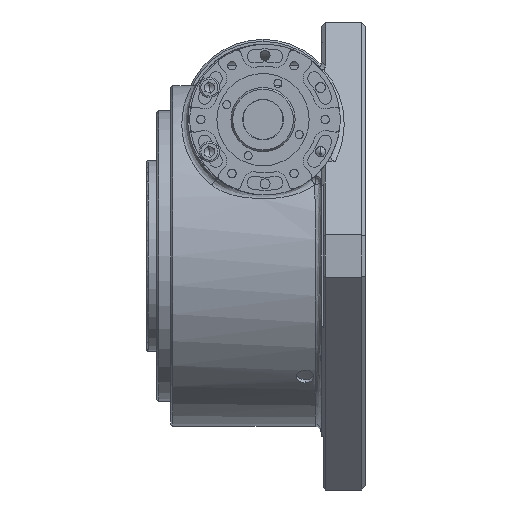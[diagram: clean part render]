
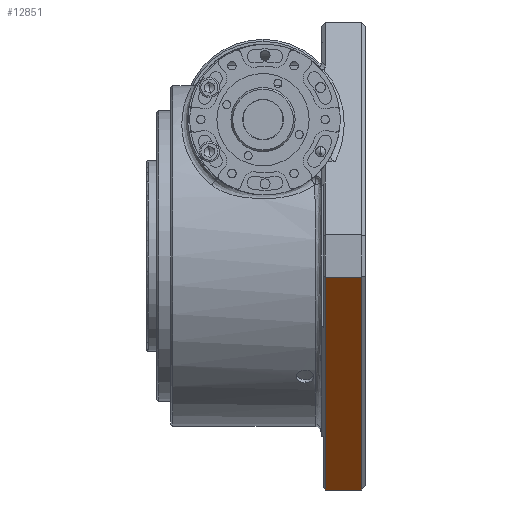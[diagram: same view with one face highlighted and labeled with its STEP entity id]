
A CAD part, left-side view. The second image highlights one B-rep face of the part: STEP entity #12851.
In plain terms, the highlighted planar face has unit normal (-0.707, 0, -0.707).
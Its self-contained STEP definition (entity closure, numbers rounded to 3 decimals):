
#1736 = EDGE_LOOP ( 'NONE', ( #7305, #69927, #2264, #39900 ) ) ;
#2264 = ORIENTED_EDGE ( 'NONE', *, *, #52411, .F. ) ;
#5615 = CARTESIAN_POINT ( 'NONE',  ( -39.864, -47.868, -127.279 ) ) ;
#5645 = VECTOR ( 'NONE', #51696, 1000. ) ;
#6285 = VERTEX_POINT ( 'NONE', #45252 ) ;
#7305 = ORIENTED_EDGE ( 'NONE', *, *, #29962, .F. ) ;
#11348 = AXIS2_PLACEMENT_3D ( 'NONE', #44485, #17276, #55396 ) ;
#11746 = PLANE ( 'NONE',  #11348 ) ;
#12851 = ADVANCED_FACE ( 'NONE', ( #48982 ), #11746, .F. ) ;
#14112 = LINE ( 'NONE', #26954, #41469 ) ;
#14619 = CARTESIAN_POINT ( 'NONE',  ( -156.536, -27.868, -10.607 ) ) ;
#17276 = DIRECTION ( 'NONE',  ( 0.707, 0., 0.707 ) ) ;
#23032 = VERTEX_POINT ( 'NONE', #23560 ) ;
#23560 = CARTESIAN_POINT ( 'NONE',  ( -156.536, -47.868, -10.607 ) ) ;
#26657 = LINE ( 'NONE', #5615, #37749 ) ;
#26954 = CARTESIAN_POINT ( 'NONE',  ( -50.47, -29.868, -116.673 ) ) ;
#28022 = CARTESIAN_POINT ( 'NONE',  ( -50.47, -29.868, -116.673 ) ) ;
#29151 = CARTESIAN_POINT ( 'NONE',  ( -50.47, -47.868, -116.673 ) ) ;
#29962 = EDGE_CURVE ( 'NONE', #23032, #64099, #26657, .T. ) ;
#34256 = VERTEX_POINT ( 'NONE', #28022 ) ;
#35005 = EDGE_CURVE ( 'NONE', #64099, #34256, #63690, .T. ) ;
#37749 = VECTOR ( 'NONE', #43866, 1000. ) ;
#39900 = ORIENTED_EDGE ( 'NONE', *, *, #35005, .F. ) ;
#41008 = CARTESIAN_POINT ( 'NONE',  ( -50.47, -27.868, -116.673 ) ) ;
#41469 = VECTOR ( 'NONE', #59560, 1000. ) ;
#43866 = DIRECTION ( 'NONE',  ( 0.707, 0., -0.707 ) ) ;
#44485 = CARTESIAN_POINT ( 'NONE',  ( -39.864, -27.868, -127.279 ) ) ;
#45252 = CARTESIAN_POINT ( 'NONE',  ( -156.536, -29.868, -10.607 ) ) ;
#48982 = FACE_OUTER_BOUND ( 'NONE', #1736, .T. ) ;
#50169 = EDGE_CURVE ( 'NONE', #6285, #23032, #57007, .T. ) ;
#51696 = DIRECTION ( 'NONE',  ( 0., 1., 0. ) ) ;
#52411 = EDGE_CURVE ( 'NONE', #34256, #6285, #14112, .T. ) ;
#55396 = DIRECTION ( 'NONE',  ( 0.707, 0., -0.707 ) ) ;
#57007 = LINE ( 'NONE', #14619, #69762 ) ;
#59560 = DIRECTION ( 'NONE',  ( -0.707, 0., 0.707 ) ) ;
#63690 = LINE ( 'NONE', #41008, #5645 ) ;
#64099 = VERTEX_POINT ( 'NONE', #29151 ) ;
#69177 = DIRECTION ( 'NONE',  ( 0., -1., 0. ) ) ;
#69762 = VECTOR ( 'NONE', #69177, 1000. ) ;
#69927 = ORIENTED_EDGE ( 'NONE', *, *, #50169, .F. ) ;
